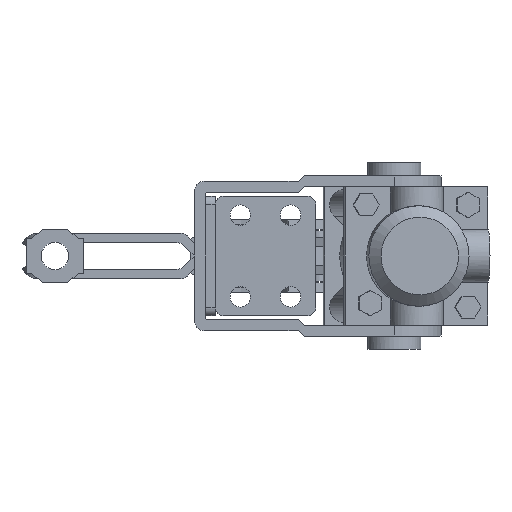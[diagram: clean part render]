
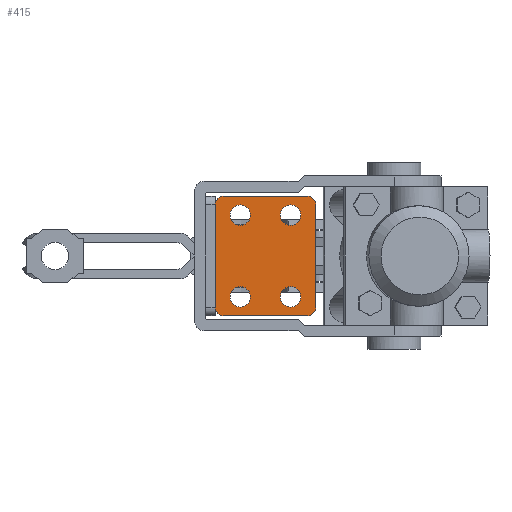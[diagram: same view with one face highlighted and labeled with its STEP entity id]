
A CAD part, front view. The second image highlights one B-rep face of the part: STEP entity #415.
In plain terms, the highlighted planar face has unit normal (0, -1, 0).
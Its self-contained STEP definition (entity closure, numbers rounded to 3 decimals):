
#415 = ADVANCED_FACE( '', ( #866, #867, #868, #869, #870 ), #871, .F. );
#866 = FACE_BOUND( '', #1872, .T. );
#867 = FACE_BOUND( '', #1873, .T. );
#868 = FACE_BOUND( '', #1874, .T. );
#869 = FACE_BOUND( '', #1875, .T. );
#870 = FACE_OUTER_BOUND( '', #1876, .T. );
#871 = PLANE( '', #1877 );
#1872 = EDGE_LOOP( '', ( #2960 ) );
#1873 = EDGE_LOOP( '', ( #2961 ) );
#1874 = EDGE_LOOP( '', ( #2962 ) );
#1875 = EDGE_LOOP( '', ( #2963 ) );
#1876 = EDGE_LOOP( '', ( #2964, #2965, #2966, #2967, #2968, #2969, #2970, #2971 ) );
#1877 = AXIS2_PLACEMENT_3D( '', #2972, #2973, #2974 );
#2960 = ORIENTED_EDGE( '', *, *, #6440, .T. );
#2961 = ORIENTED_EDGE( '', *, *, #6441, .T. );
#2962 = ORIENTED_EDGE( '', *, *, #6442, .T. );
#2963 = ORIENTED_EDGE( '', *, *, #6443, .T. );
#2964 = ORIENTED_EDGE( '', *, *, #6384, .T. );
#2965 = ORIENTED_EDGE( '', *, *, #6444, .F. );
#2966 = ORIENTED_EDGE( '', *, *, #6392, .T. );
#2967 = ORIENTED_EDGE( '', *, *, #6445, .F. );
#2968 = ORIENTED_EDGE( '', *, *, #6403, .F. );
#2969 = ORIENTED_EDGE( '', *, *, #6446, .F. );
#2970 = ORIENTED_EDGE( '', *, *, #6388, .F. );
#2971 = ORIENTED_EDGE( '', *, *, #6447, .F. );
#2972 = CARTESIAN_POINT( '', ( -0.5, 0., -20.8 ) );
#2973 = DIRECTION( '', ( 0., 1., 0. ) );
#2974 = DIRECTION( '', ( 0., 0., 1. ) );
#6384 = EDGE_CURVE( '', #7501, #7499, #7502, .T. );
#6388 = EDGE_CURVE( '', #7508, #7509, #7510, .T. );
#6392 = EDGE_CURVE( '', #7516, #7517, #7518, .T. );
#6403 = EDGE_CURVE( '', #7537, #7538, #7539, .T. );
#6440 = EDGE_CURVE( '', #7610, #7610, #7611, .T. );
#6441 = EDGE_CURVE( '', #7612, #7612, #7613, .T. );
#6442 = EDGE_CURVE( '', #7614, #7614, #7615, .T. );
#6443 = EDGE_CURVE( '', #7616, #7616, #7617, .T. );
#6444 = EDGE_CURVE( '', #7516, #7499, #7618, .T. );
#6445 = EDGE_CURVE( '', #7538, #7517, #7619, .T. );
#6446 = EDGE_CURVE( '', #7509, #7537, #7620, .T. );
#6447 = EDGE_CURVE( '', #7501, #7508, #7621, .T. );
#7499 = VERTEX_POINT( '', #9381 );
#7501 = VERTEX_POINT( '', #9384 );
#7502 = LINE( '', #9385, #9386 );
#7508 = VERTEX_POINT( '', #9395 );
#7509 = VERTEX_POINT( '', #9396 );
#7510 = LINE( '', #9397, #9398 );
#7516 = VERTEX_POINT( '', #9407 );
#7517 = VERTEX_POINT( '', #9408 );
#7518 = LINE( '', #9409, #9410 );
#7537 = VERTEX_POINT( '', #9439 );
#7538 = VERTEX_POINT( '', #9440 );
#7539 = LINE( '', #9441, #9442 );
#7610 = VERTEX_POINT( '', #9541 );
#7611 = CIRCLE( '', #9542, 3.25 );
#7612 = VERTEX_POINT( '', #9543 );
#7613 = CIRCLE( '', #9544, 3.25 );
#7614 = VERTEX_POINT( '', #9545 );
#7615 = CIRCLE( '', #9546, 3.25 );
#7616 = VERTEX_POINT( '', #9547 );
#7617 = CIRCLE( '', #9548, 3.25 );
#7618 = CIRCLE( '', #9549, 2.5 );
#7619 = CIRCLE( '', #9550, 2.5 );
#7620 = CIRCLE( '', #9551, 2.5 );
#7621 = CIRCLE( '', #9552, 2.5 );
#9381 = CARTESIAN_POINT( '', ( 3., 0., -16.5 ) );
#9384 = CARTESIAN_POINT( '', ( 3., 0., 16.5 ) );
#9385 = CARTESIAN_POINT( '', ( 3., 0., 19.5 ) );
#9386 = VECTOR( '', #13115, 1000. );
#9395 = CARTESIAN_POINT( '', ( 5.5, 0., 19. ) );
#9396 = CARTESIAN_POINT( '', ( 32.5, 0., 19. ) );
#9397 = CARTESIAN_POINT( '', ( 0., 0., 19. ) );
#9398 = VECTOR( '', #13119, 1000. );
#9407 = CARTESIAN_POINT( '', ( 5.5, 0., -19. ) );
#9408 = CARTESIAN_POINT( '', ( 32.5, 0., -19. ) );
#9409 = CARTESIAN_POINT( '', ( 0., 0., -19. ) );
#9410 = VECTOR( '', #13123, 1000. );
#9439 = CARTESIAN_POINT( '', ( 35., 0., 16.5 ) );
#9440 = CARTESIAN_POINT( '', ( 35., 0., -16.5 ) );
#9441 = CARTESIAN_POINT( '', ( 35., 0., 19. ) );
#9442 = VECTOR( '', #13134, 1000. );
#9541 = CARTESIAN_POINT( '', ( 30.25, 0., 13. ) );
#9542 = AXIS2_PLACEMENT_3D( '', #13187, #13188, #13189 );
#9543 = CARTESIAN_POINT( '', ( 14.25, 0., 13. ) );
#9544 = AXIS2_PLACEMENT_3D( '', #13190, #13191, #13192 );
#9545 = CARTESIAN_POINT( '', ( 30.25, 0., -13. ) );
#9546 = AXIS2_PLACEMENT_3D( '', #13193, #13194, #13195 );
#9547 = CARTESIAN_POINT( '', ( 14.25, 0., -13. ) );
#9548 = AXIS2_PLACEMENT_3D( '', #13196, #13197, #13198 );
#9549 = AXIS2_PLACEMENT_3D( '', #13199, #13200, #13201 );
#9550 = AXIS2_PLACEMENT_3D( '', #13202, #13203, #13204 );
#9551 = AXIS2_PLACEMENT_3D( '', #13205, #13206, #13207 );
#9552 = AXIS2_PLACEMENT_3D( '', #13208, #13209, #13210 );
#13115 = DIRECTION( '', ( 0., 0., -1. ) );
#13119 = DIRECTION( '', ( 1., 0., 0. ) );
#13123 = DIRECTION( '', ( 1., 0., 0. ) );
#13134 = DIRECTION( '', ( 0., 0., -1. ) );
#13187 = CARTESIAN_POINT( '', ( 27., 0., 13. ) );
#13188 = DIRECTION( '', ( 0., 1., 0. ) );
#13189 = DIRECTION( '', ( 1., 0., 0. ) );
#13190 = CARTESIAN_POINT( '', ( 11., 0., 13. ) );
#13191 = DIRECTION( '', ( 0., 1., 0. ) );
#13192 = DIRECTION( '', ( 1., 0., 0. ) );
#13193 = CARTESIAN_POINT( '', ( 27., 0., -13. ) );
#13194 = DIRECTION( '', ( 0., 1., 0. ) );
#13195 = DIRECTION( '', ( 1., 0., 0. ) );
#13196 = CARTESIAN_POINT( '', ( 11., 0., -13. ) );
#13197 = DIRECTION( '', ( 0., 1., 0. ) );
#13198 = DIRECTION( '', ( 1., 0., 0. ) );
#13199 = CARTESIAN_POINT( '', ( 5.5, 0., -16.5 ) );
#13200 = DIRECTION( '', ( 0., 1., 0. ) );
#13201 = DIRECTION( '', ( 1., 0., 0. ) );
#13202 = CARTESIAN_POINT( '', ( 32.5, 0., -16.5 ) );
#13203 = DIRECTION( '', ( 0., 1., 0. ) );
#13204 = DIRECTION( '', ( 1., 0., 0. ) );
#13205 = CARTESIAN_POINT( '', ( 32.5, 0., 16.5 ) );
#13206 = DIRECTION( '', ( 0., 1., 0. ) );
#13207 = DIRECTION( '', ( 1., 0., 0. ) );
#13208 = CARTESIAN_POINT( '', ( 5.5, 0., 16.5 ) );
#13209 = DIRECTION( '', ( 0., 1., 0. ) );
#13210 = DIRECTION( '', ( 1., 0., 0. ) );
